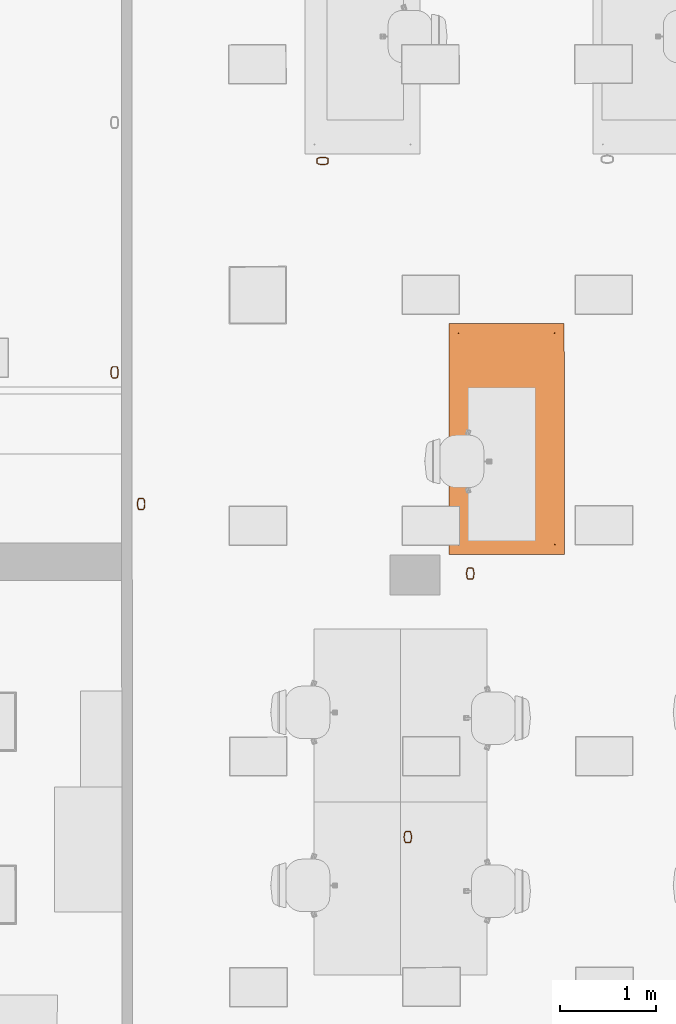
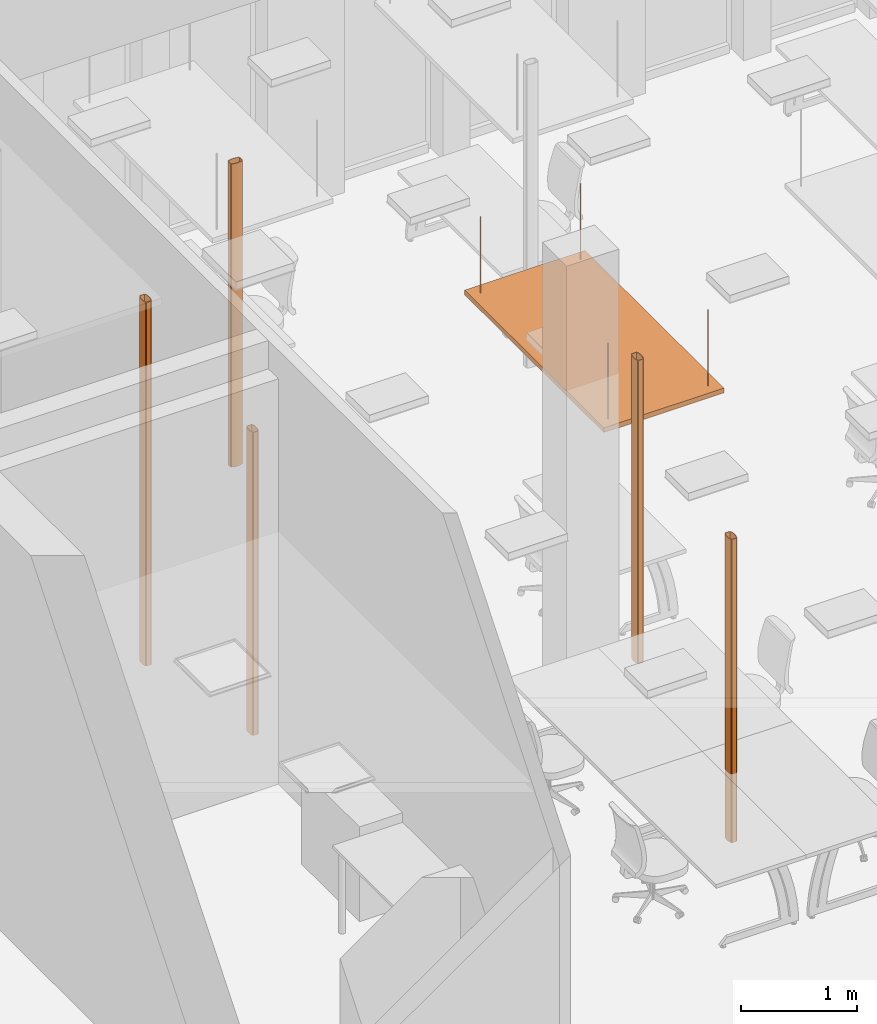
# One storey, part 125 of 128: 6 proxies.
"""IFC2X3 building model written with IfcOpenShell, lengths in metres."""

from ifc_helpers import new_model, entity, si_unit, converted_unit, derived_unit, direction, frame, origin, origin_2d_with_axis, place, context, subcontext, project, spatial, polyline, rectangle, circle, outline, extrude, source, transform, mapped, material, type_object, type_shapes, element, save


model = new_model("IFC2X3")

# Units and contexts
model_context = context("Model", 3, precision=1e-05, world=origin(), true_north=direction((6.123031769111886e-17, 1.0)))
body_context = subcontext(model_context, "Body", "Model", "MODEL_VIEW")
ifc_project = project(units=[si_unit("LENGTHUNIT", "METRE"), si_unit("AREAUNIT", "SQUARE_METRE"), converted_unit("PLANEANGLEUNIT", "DEGREE", entity("IfcPlaneAngleMeasure", 0.017453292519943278), si_unit("PLANEANGLEUNIT", "RADIAN"), dimensions=[0, 0, 0, 0, 0, 0, 0]), derived_unit("THERMALTRANSMITTANCEUNIT", [(si_unit("MASSUNIT", "GRAM", prefix="KILO"), 1), (si_unit("THERMODYNAMICTEMPERATUREUNIT", "KELVIN"), -1), (si_unit("TIMEUNIT", "SECOND"), -3)])], contexts=[model_context])

# Site, building, storey
site_placement = place(None, origin())
site = spatial("IfcSite", under=ifc_project, at=site_placement, Name="Default", CompositionType="ELEMENT")
building_placement = place(site_placement, origin())
building = spatial("IfcBuilding", under=site, at=building_placement, CompositionType="ELEMENT")
storey_placement = place(building_placement, origin())
storey = spatial("IfcBuildingStorey", under=building, at=storey_placement, Name="00_RDC CAF", CompositionType="ELEMENT", Elevation=2.4982504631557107e-13)

# Proxies
ifc_material_1 = material(Name="ARC - Mo - Blanc")
building_element_proxy_type_1 = type_object("IfcBuildingElementProxyType", Name="Eq_Spe_Plafond_Acoustique_Suspendu:Eq_Spe_Plafond_Acoustique_Suspendu", PredefinedType="NOTDEFINED", material=ifc_material_1)
shared_shape_1 = source(origin(), body_context, "Body", "SweptSolid", [
    extrude(circle(Radius=0.005, at=origin_2d_with_axis()), frame((-1.0999999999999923, -0.5000000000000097, 0.0)), (0.0, 0.0, 1.0), 0.8000000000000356),
    extrude(circle(Radius=0.005, at=origin_2d_with_axis()), frame((-1.0999999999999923, 0.4999999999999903, 0.0)), (0.0, 0.0, 1.0), 0.8000000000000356),
    extrude(circle(Radius=0.005, at=origin_2d_with_axis()), frame((1.1000000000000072, -0.5000000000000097, 0.0)), (0.0, 0.0, 1.0), 0.8),
    extrude(circle(Radius=0.005, at=origin_2d_with_axis()), frame((1.1000000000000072, 0.4999999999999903, 0.0)), (0.0, 0.0, 1.0), 0.8),
    extrude(rectangle(XDim=2.3999999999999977, YDim=1.1999999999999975, at=origin_2d_with_axis()), frame((0.0, 0.0, 0.7999999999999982), z_axis=(0.0, 0.0, 1.0), x_axis=(-1.0, 0.0, 0.0)), (0.0, 0.0, 1.0), 0.05),
])
type_shapes(building_element_proxy_type_1, [shared_shape_1])
proxy_1_placement = place(storey_placement, frame((37.68372283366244, 137.9470459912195, 3.1999999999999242), z_axis=(0.0, 0.0, -1.0), x_axis=(0.0011868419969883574, -0.9999992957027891, 0.0)))
element("IfcBuildingElementProxy", 1, at=proxy_1_placement, inside=storey, type_object=building_element_proxy_type_1, material=ifc_material_1, Name="Eq_Spe_Plafond_Acoustique_Suspendu:Eq_Spe_Plafond_Acoustique_Suspendu", ObjectType="Eq_Spe_Plafond_Acoustique_Suspendu:Eq_Spe_Plafond_Acoustique_Suspendu", context=body_context, shape_type="MappedRepresentation", body=[
    mapped(shared_shape_1, transform((0.0, 0.0, 0.0), scale=1.0)),
])
ifc_material_2 = material(Name="<Unnamed>")
building_element_proxy_type_2 = type_object("IfcBuildingElementProxyType", Name="Eq_Elec_Colonne_Electrique:Eq_Elec_Colonne_Electrique_120x80mm", PredefinedType="NOTDEFINED", material=ifc_material_2)
shared_shape_2 = source(origin(), body_context, "Body", "SweptSolid", [
    extrude(outline(polyline([(-0.020000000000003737, -0.05999999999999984), (0.019999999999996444, -0.05999999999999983), (0.023128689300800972, -0.05926130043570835), (0.02907980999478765, -0.053460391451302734), (0.03414213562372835, -0.042426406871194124), (0.0378201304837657, -0.027239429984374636), (0.03975376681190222, -0.009386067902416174), (0.03975376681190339, 0.009386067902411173), (0.03782013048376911, 0.02723942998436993), (0.03414213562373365, 0.04242640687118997), (0.029079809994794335, 0.05346039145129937), (0.02312868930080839, 0.05926130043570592), (0.020000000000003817, 0.05999999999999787), (-0.019999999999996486, 0.06000000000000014), (-0.02312868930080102, 0.05926130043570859), (-0.029079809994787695, 0.05346039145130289), (-0.034142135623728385, 0.042426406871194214), (-0.03782013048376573, 0.02723942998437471), (-0.03975376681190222, 0.009386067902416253), (-0.03975376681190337, -0.009386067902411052), (-0.037820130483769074, -0.02723942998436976), (-0.03414213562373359, -0.04242640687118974), (-0.02907980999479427, -0.053460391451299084), (-0.023128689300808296, -0.05926130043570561), (-0.020000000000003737, -0.05999999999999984)]), holes=[polyline([(-0.020000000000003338, -0.054999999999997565), (-0.020774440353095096, -0.05483604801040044), (-0.0220433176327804, -0.05405805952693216), (-0.023758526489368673, -0.05229805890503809), (-0.025667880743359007, -0.04946080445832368), (-0.027588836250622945, -0.04560885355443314), (-0.029398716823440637, -0.04084541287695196), (-0.031022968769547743, -0.03528665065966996), (-0.032410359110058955, -0.029054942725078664), (-0.03352451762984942, -0.02227710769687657), (-0.03433829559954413, -0.015084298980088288), (-0.03483355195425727, -0.007612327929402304), (-0.035000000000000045, 0.0), (-0.03483355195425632, 0.007612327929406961), (-0.03433829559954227, 0.01508429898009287), (-0.033524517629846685, 0.022277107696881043), (-0.03241035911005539, 0.02905494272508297), (-0.031022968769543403, 0.035286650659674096), (-0.02939871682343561, 0.04084541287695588), (-0.027588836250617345, 0.04560885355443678), (-0.025667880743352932, 0.04946080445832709), (-0.02375852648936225, 0.052298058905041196), (-0.022043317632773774, 0.054058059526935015), (-0.020774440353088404, 0.05483604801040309), (-0.019999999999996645, 0.05500000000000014), (0.020000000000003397, 0.05499999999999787), (0.020774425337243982, 0.054836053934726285), (0.022043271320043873, 0.05405809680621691), (0.023758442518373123, 0.05229816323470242), (0.025667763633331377, 0.049461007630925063), (0.02758869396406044, 0.04560918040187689), (0.02939856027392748, 0.04084588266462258), (0.03102280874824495, 0.03528727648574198), (0.0324102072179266, 0.02905573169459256), (0.03352438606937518, 0.022278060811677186), (0.034338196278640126, 0.015085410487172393), (0.03483349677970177, 0.007613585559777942), (0.0349999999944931, 1.3846905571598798e-06), (0.03483361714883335, -0.007610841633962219), (0.03433843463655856, -0.01508274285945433), (0.03352473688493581, -0.022275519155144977), (0.03241066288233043, -0.029053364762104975), (0.031023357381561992, -0.03528513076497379), (0.02939918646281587, -0.04084400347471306), (0.02758937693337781, -0.045607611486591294), (0.025668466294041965, -0.04945978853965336), (0.023759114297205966, -0.05229732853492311), (0.022043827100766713, -0.05405764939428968), (0.02077478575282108, -0.054835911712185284), (0.020000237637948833, -0.05500000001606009), (-0.020000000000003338, -0.054999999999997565)])]), frame((0.0, 0.0, 0.0), z_axis=(0.0, 0.0, 1.0), x_axis=(0.0, -1.0, 0.0)), (0.0, 0.0, 1.0), 3.2),
])
type_shapes(building_element_proxy_type_2, [shared_shape_2])
proxy_2_placement = place(storey_placement, frame((35.76936605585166, 140.83959281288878, 0.0)))
element("IfcBuildingElementProxy", 2, at=proxy_2_placement, inside=storey, type_object=building_element_proxy_type_2, material=ifc_material_2, Name="Eq_Elec_Colonne_Electrique:Eq_Elec_Colonne_Electrique_120x80mm", ObjectType="Eq_Elec_Colonne_Electrique:Eq_Elec_Colonne_Electrique_120x80mm", context=body_context, shape_type="MappedRepresentation", body=[
    mapped(shared_shape_2, transform((0.0, 0.0, 0.0), scale=1.0)),
])
for number, where, z_axis, x_axis, name in (
    (3, (37.30485548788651, 136.5464336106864, 0.0), (0.0, 0.0, 1.0), (0.0, 1.0, 0.0), "Eq_Elec_Colonne_Electrique:Eq_Elec_Colonne_Electrique_120x80mm"),
    (4, (36.65502482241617, 133.80538748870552, 0.0), (0.0, 0.0, 1.0), (0.0, 1.0, 0.0), "Eq_Elec_Colonne_Electrique:Eq_Elec_Colonne_Electrique_120x80mm"),
    (5, (33.88087905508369, 137.27099768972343, 0.0), (0.0, 0.0, 1.0), (0.0, -1.0, 0.0), "Eq_Elec_Colonne_Electrique:Eq_Elec_Colonne_Electrique_120x80mm"),
):
    element("IfcBuildingElementProxy", number, at=place(storey_placement, frame(where, z_axis=z_axis, x_axis=x_axis)), inside=storey, type_object=building_element_proxy_type_2, material=ifc_material_2, Name=name, ObjectType="Eq_Elec_Colonne_Electrique:Eq_Elec_Colonne_Electrique_120x80mm", context=body_context, shape_type="MappedRepresentation", body=[
        mapped(shared_shape_2, transform((0.0, 0.0, 0.0), scale=1.0)),
    ])
building_element_proxy_type_3 = type_object("IfcBuildingElementProxyType", Name="Eq_Elec_Colonne_Electrique:Eq_Elec_Colonne_Electrique_120x80mm", PredefinedType="NOTDEFINED", material=ifc_material_2)
shared_shape_3 = source(origin(), body_context, "Body", "SweptSolid", [
    extrude(outline(polyline([(-0.020000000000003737, -0.05999999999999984), (0.019999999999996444, -0.05999999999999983), (0.023128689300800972, -0.05926130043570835), (0.02907980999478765, -0.053460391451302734), (0.03414213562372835, -0.042426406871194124), (0.0378201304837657, -0.027239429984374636), (0.03975376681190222, -0.009386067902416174), (0.03975376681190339, 0.009386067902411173), (0.03782013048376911, 0.02723942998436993), (0.03414213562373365, 0.04242640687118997), (0.029079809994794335, 0.05346039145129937), (0.02312868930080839, 0.05926130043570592), (0.020000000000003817, 0.05999999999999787), (-0.019999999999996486, 0.06000000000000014), (-0.02312868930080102, 0.05926130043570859), (-0.029079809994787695, 0.05346039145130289), (-0.034142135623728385, 0.042426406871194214), (-0.03782013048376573, 0.02723942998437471), (-0.03975376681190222, 0.009386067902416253), (-0.03975376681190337, -0.009386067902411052), (-0.037820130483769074, -0.02723942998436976), (-0.03414213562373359, -0.04242640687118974), (-0.02907980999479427, -0.053460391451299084), (-0.023128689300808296, -0.05926130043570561), (-0.020000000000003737, -0.05999999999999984)]), holes=[polyline([(-0.020000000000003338, -0.054999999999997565), (-0.020774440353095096, -0.05483604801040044), (-0.0220433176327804, -0.05405805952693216), (-0.023758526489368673, -0.05229805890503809), (-0.025667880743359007, -0.04946080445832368), (-0.027588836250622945, -0.04560885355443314), (-0.029398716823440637, -0.04084541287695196), (-0.031022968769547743, -0.03528665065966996), (-0.032410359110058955, -0.029054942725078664), (-0.03352451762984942, -0.02227710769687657), (-0.03433829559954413, -0.015084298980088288), (-0.03483355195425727, -0.007612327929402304), (-0.035000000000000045, 0.0), (-0.03483355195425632, 0.007612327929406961), (-0.03433829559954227, 0.01508429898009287), (-0.033524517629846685, 0.022277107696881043), (-0.03241035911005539, 0.02905494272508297), (-0.031022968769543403, 0.035286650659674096), (-0.02939871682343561, 0.04084541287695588), (-0.027588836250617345, 0.04560885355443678), (-0.025667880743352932, 0.04946080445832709), (-0.02375852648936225, 0.052298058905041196), (-0.022043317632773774, 0.054058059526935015), (-0.020774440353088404, 0.05483604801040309), (-0.019999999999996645, 0.05500000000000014), (0.020000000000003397, 0.05499999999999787), (0.020774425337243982, 0.054836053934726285), (0.022043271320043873, 0.05405809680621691), (0.023758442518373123, 0.05229816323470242), (0.025667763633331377, 0.049461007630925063), (0.02758869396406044, 0.04560918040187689), (0.02939856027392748, 0.04084588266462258), (0.03102280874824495, 0.03528727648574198), (0.0324102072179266, 0.02905573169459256), (0.03352438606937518, 0.022278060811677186), (0.034338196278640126, 0.015085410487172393), (0.03483349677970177, 0.007613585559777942), (0.0349999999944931, 1.3846905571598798e-06), (0.03483361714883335, -0.007610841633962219), (0.03433843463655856, -0.01508274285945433), (0.03352473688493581, -0.022275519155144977), (0.03241066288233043, -0.029053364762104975), (0.031023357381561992, -0.03528513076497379), (0.02939918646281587, -0.04084400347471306), (0.02758937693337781, -0.045607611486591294), (0.025668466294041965, -0.04945978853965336), (0.023759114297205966, -0.05229732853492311), (0.022043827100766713, -0.05405764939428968), (0.02077478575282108, -0.054835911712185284), (0.020000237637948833, -0.05500000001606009), (-0.020000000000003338, -0.054999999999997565)])]), frame((0.0, 0.0, 0.0), z_axis=(0.0, 0.0, 1.0), x_axis=(0.0, -1.0, 0.0)), (0.0, 0.0, 1.0), 3.84),
])
type_shapes(building_element_proxy_type_3, [shared_shape_3])
proxy_3_placement = place(storey_placement, frame((33.60430667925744, 138.64116375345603, 0.0), z_axis=(0.0, 0.0, 1.0), x_axis=(0.0, -1.0, 0.0)))
element("IfcBuildingElementProxy", 6, at=proxy_3_placement, inside=storey, type_object=building_element_proxy_type_3, material=ifc_material_2, Name="Eq_Elec_Colonne_Electrique:Eq_Elec_Colonne_Electrique_120x80mm", ObjectType="Eq_Elec_Colonne_Electrique:Eq_Elec_Colonne_Electrique_120x80mm", context=body_context, shape_type="MappedRepresentation", body=[
    mapped(shared_shape_3, transform((0.0, 0.0, 0.0), scale=1.0)),
])

save(model, "model.ifc")
